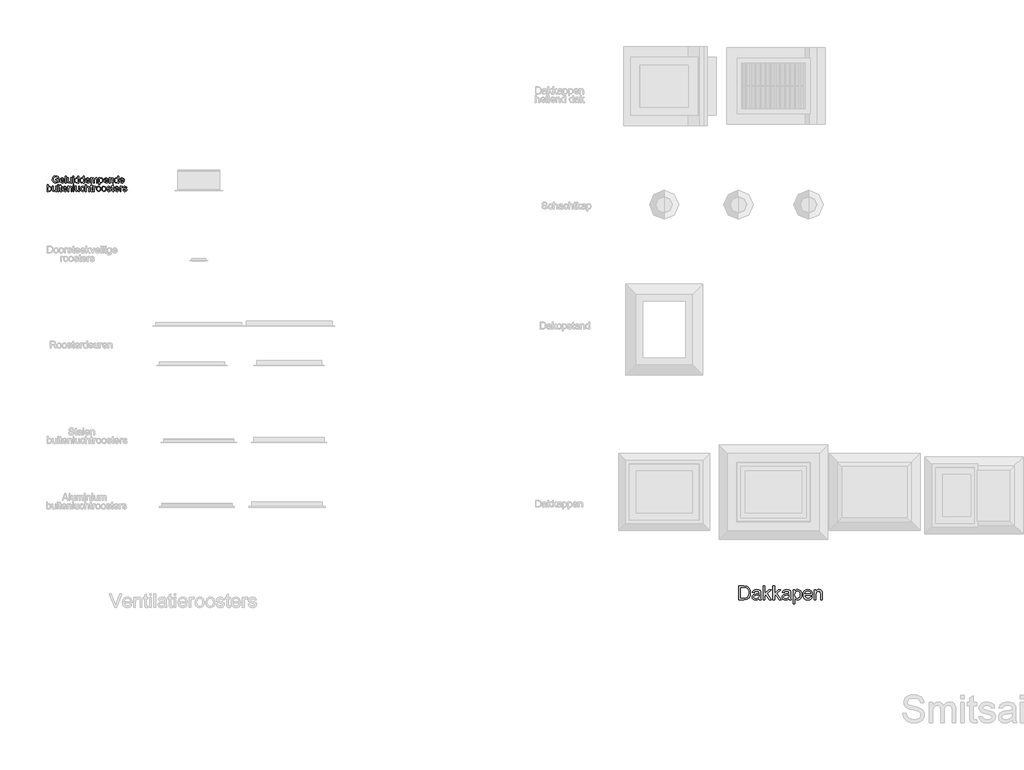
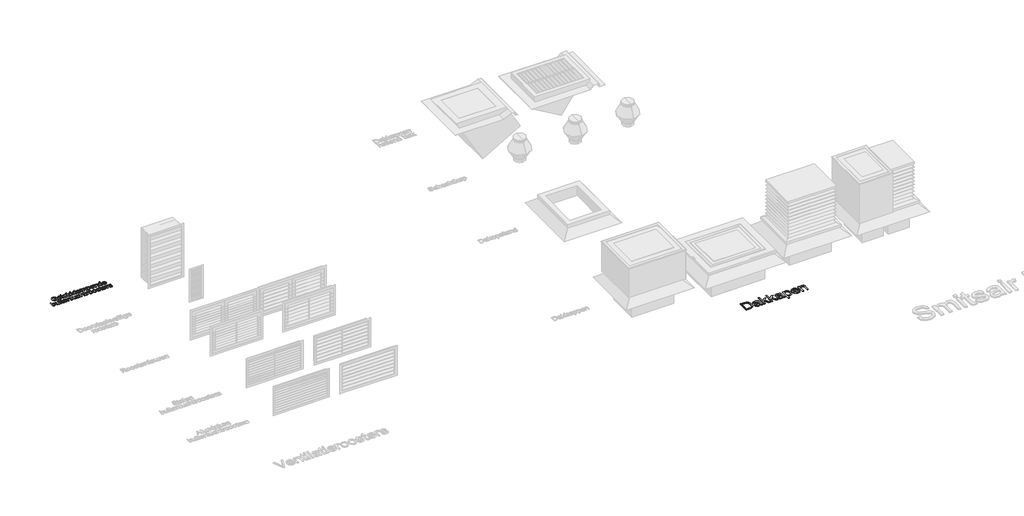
# One storey, part 4 of 10: 2 proxies.
"""IFC4 building model written with IfcOpenShell, lengths in millimetres."""

from ifc_helpers import new_model, si_unit, origin, origin_with_axes, place, context, project, spatial, polyline, outline, extrude, element, save

model = new_model("IFC4")

# Units and contexts
model_context = context("Model", 3, world=origin())
ifc_project = project(units=[si_unit("LENGTHUNIT", "METRE", prefix="MILLI")], contexts=[model_context])

# Site, building, storey
site = spatial("IfcSite", under=ifc_project)
building = spatial("IfcBuilding", under=site)
storey = spatial("IfcBuildingStorey", under=building, Name="Ventilatieroosters", Elevation=0.0)

# Proxies
placement = place(None, origin())
element("IfcBuildingElementProxy", 1, Name="100mm", ObjectType="100mm", at=placement, inside=storey, context=model_context, shape_type="SweptSolid", body=[
    extrude(outline(polyline([(-4813.7879103, -10375.7686565), (-4813.7879103, -10363.4609642), (-4773.7879103, -10363.4609642), (-4773.7879103, -10400.2638488), (-4793.5355065, -10411.8744258), (-4814.4129103, -10415.7686565), (-4828.2200016, -10414.2211806), (-4840.698968, -10409.5787527), (-4851.0655545, -10402.0036325), (-4858.5355065, -10391.6580796), (-4863.0517324, -10379.2482238), (-4864.5571411, -10365.480195), (-4858.5595449, -10338.7133681), (-4851.2488478, -10327.8930556), (-4841.3119488, -10320.2638488), (-4829.2085834, -10315.7386084), (-4815.3984872, -10314.230195), (-4796.1436795, -10317.7277911), (-4782.6460834, -10327.4633681), (-4775.2061795, -10343.7494258), (-4786.5523334, -10346.9465411), (-4792.1653141, -10335.5643296), (-4801.7566603, -10329.0018296), (-4815.5907949, -10326.5378873), (-4831.3480065, -10329.1941373), (-4842.0691603, -10336.1652911), (-4848.4032949, -10345.6484642), (-4852.2494488, -10364.9753873), (-4847.6220449, -10386.4297142), (-4834.1605065, -10399.2662527), (-4815.3984872, -10403.4609642), (-4798.5595449, -10400.2999065), (-4786.0956026, -10393.5571181), (-4786.0956026, -10375.7686565), (-4813.7879103, -10375.7686565)])), origin_with_axes(), (0.0, 0.0, 1.0), 2.0),
    extrude(outline(polyline([(-4704.7013718, -10392.6917334), (-4692.6340641, -10394.230195), (-4696.9820209, -10403.3227431), (-4703.9201218, -10410.1196181), (-4713.292117, -10414.3563969), (-4724.9417565, -10415.7686565), (-4739.3828622, -10413.3317575), (-4750.4946411, -10406.0210604), (-4757.5799776, -10394.3113248), (-4759.9417565, -10378.6773104), (-4757.5559391, -10362.5174546), (-4750.3984872, -10350.4321181), (-4739.4369488, -10342.8960604), (-4725.6388718, -10340.3840411), (-4712.2704824, -10342.8900508), (-4701.5883911, -10350.4080796), (-4694.5841843, -10362.4693777), (-4692.2494488, -10378.605195), (-4692.3215641, -10381.9225027), (-4747.6340641, -10381.9225027), (-4745.5036555, -10391.1352431), (-4740.5547372, -10397.9080796), (-4724.7013718, -10403.4609642), (-4712.6340641, -10400.8888488), (-4704.7013718, -10392.6917334)]), holes=[polyline([(-4747.6340641, -10369.6148104), (-4704.5571411, -10369.6148104), (-4709.4850257, -10358.4609642), (-4716.6605065, -10354.1340411), (-4725.6869488, -10352.6917334), (-4740.8431988, -10357.2950988), (-4747.6340641, -10369.6148104)])]), origin_with_axes(), (0.0, 0.0, 1.0), 2.0),
    extrude(outline(polyline([(-4679.9417565, -10414.230195), (-4679.9417565, -10315.7686565), (-4667.6340641, -10315.7686565), (-4667.6340641, -10414.230195), (-4679.9417565, -10414.230195)])), origin_with_axes(), (0.0, 0.0, 1.0), 2.0),
    extrude(outline(polyline([(-4603.0186795, -10414.230195), (-4603.0186795, -10401.8023104), (-4612.6581026, -10412.27707), (-4625.230218, -10415.7686565), (-4636.8047372, -10413.3167334), (-4644.7855065, -10407.1628873), (-4648.4513718, -10398.1003873), (-4649.1725257, -10386.6580796), (-4649.1725257, -10341.9225027), (-4636.8648334, -10341.9225027), (-4636.8648334, -10380.8648104), (-4636.1196411, -10393.4128873), (-4631.2518526, -10400.7806758), (-4622.0811795, -10403.4609642), (-4611.8047372, -10400.7205796), (-4605.0138718, -10393.2566373), (-4603.0186795, -10379.542695), (-4603.0186795, -10341.9225027), (-4590.7109872, -10341.9225027), (-4590.7109872, -10414.230195), (-4603.0186795, -10414.230195)])), origin_with_axes(), (0.0, 0.0, 1.0), 2.0),
    extrude(outline(polyline([(-4573.7879103, -10414.230195), (-4573.7879103, -10341.9225027), (-4561.480218, -10341.9225027), (-4561.480218, -10414.230195), (-4573.7879103, -10414.230195)])), origin_with_axes(), (0.0, 0.0, 1.0), 2.0),
    extrude(outline(polyline([(-4573.7879103, -10328.0763488), (-4573.7879103, -10315.7686565), (-4561.480218, -10315.7686565), (-4561.480218, -10328.0763488), (-4573.7879103, -10328.0763488)])), origin_with_axes(), (0.0, 0.0, 1.0), 2.0),
    extrude(outline(polyline([(-4498.4032949, -10414.230195), (-4498.4032949, -10402.6196181), (-4506.5463238, -10412.4813969), (-4517.8023334, -10415.7686565), (-4533.042718, -10411.0090411), (-4543.8119488, -10397.7277911), (-4547.6340641, -10378.1484642), (-4544.1124295, -10358.5571181), (-4533.5595449, -10345.0715411), (-4517.8504103, -10340.3840411), (-4506.5042565, -10343.7374065), (-4498.4032949, -10352.4513488), (-4498.4032949, -10315.7686565), (-4486.0956026, -10315.7686565), (-4486.0956026, -10414.230195), (-4498.4032949, -10414.230195)]), holes=[polyline([(-4535.3263718, -10378.1003873), (-4533.9381507, -10389.2331998), (-4529.7734872, -10397.1508681), (-4523.7218045, -10401.8834402), (-4516.6725257, -10403.4609642), (-4509.6262516, -10401.9555556), (-4503.7278141, -10397.4393296), (-4499.7344247, -10389.8281517), (-4498.4032949, -10379.0378873), (-4499.7584632, -10367.2410123), (-4503.823968, -10359.0619258), (-4509.8726459, -10354.2842815), (-4517.1773334, -10352.6917334), (-4524.2987276, -10354.2211806), (-4530.1340641, -10358.8095219), (-4534.0282949, -10366.6911325), (-4535.3263718, -10378.1003873)])]), origin_with_axes(), (0.0, 0.0, 1.0), 2.0),
    extrude(outline(polyline([(-4423.0186795, -10414.230195), (-4423.0186795, -10402.6196181), (-4431.1617084, -10412.4813969), (-4442.417718, -10415.7686565), (-4457.6581026, -10411.0090411), (-4468.4273334, -10397.7277911), (-4472.2494488, -10378.1484642), (-4468.7278141, -10358.5571181), (-4458.1749295, -10345.0715411), (-4442.4657949, -10340.3840411), (-4431.1196411, -10343.7374065), (-4423.0186795, -10352.4513488), (-4423.0186795, -10315.7686565), (-4410.7109872, -10315.7686565), (-4410.7109872, -10414.230195), (-4423.0186795, -10414.230195)]), holes=[polyline([(-4459.9417565, -10378.1003873), (-4458.5535353, -10389.2331998), (-4454.3888718, -10397.1508681), (-4448.3371891, -10401.8834402), (-4441.2879103, -10403.4609642), (-4434.2416363, -10401.9555556), (-4428.3431988, -10397.4393296), (-4424.3498093, -10389.8281517), (-4423.0186795, -10379.0378873), (-4424.3738478, -10367.2410123), (-4428.4393526, -10359.0619258), (-4434.4880305, -10354.2842815), (-4441.792718, -10352.6917334), (-4448.9141122, -10354.2211806), (-4454.7494488, -10358.8095219), (-4458.6436795, -10366.6911325), (-4459.9417565, -10378.1003873)])]), origin_with_axes(), (0.0, 0.0, 1.0), 2.0),
    extrude(outline(polyline([(-4341.6244488, -10392.6917334), (-4329.5571411, -10394.230195), (-4333.9050978, -10403.3227431), (-4340.8431988, -10410.1196181), (-4350.215194, -10414.3563969), (-4361.8648334, -10415.7686565), (-4376.3059391, -10413.3317575), (-4387.417718, -10406.0210604), (-4394.5030545, -10394.3113248), (-4396.8648334, -10378.6773104), (-4394.4790161, -10362.5174546), (-4387.3215641, -10350.4321181), (-4376.3600257, -10342.8960604), (-4362.5619488, -10340.3840411), (-4349.1935593, -10342.8900508), (-4338.511468, -10350.4080796), (-4331.5072613, -10362.4693777), (-4329.1725257, -10378.605195), (-4329.2446411, -10381.9225027), (-4384.5571411, -10381.9225027), (-4382.4267324, -10391.1352431), (-4377.4778141, -10397.9080796), (-4361.6244488, -10403.4609642), (-4349.5571411, -10400.8888488), (-4341.6244488, -10392.6917334)]), holes=[polyline([(-4384.5571411, -10369.6148104), (-4341.480218, -10369.6148104), (-4346.4081026, -10358.4609642), (-4353.5835834, -10354.1340411), (-4362.6100257, -10352.6917334), (-4377.7662757, -10357.2950988), (-4384.5571411, -10369.6148104)])]), origin_with_axes(), (0.0, 0.0, 1.0), 2.0),
    extrude(outline(polyline([(-4316.8648334, -10414.230195), (-4316.8648334, -10341.9225027), (-4304.5571411, -10341.9225027), (-4304.5571411, -10353.8215411), (-4296.0956026, -10344.073945), (-4284.0523334, -10340.3840411), (-4271.7206026, -10344.1460604), (-4264.9417565, -10354.6869258), (-4255.3383911, -10343.9597623), (-4243.2109872, -10340.3840411), (-4233.9591843, -10341.8714209), (-4227.1172372, -10346.3335604), (-4222.8894728, -10353.8906517), (-4221.480218, -10364.6628873), (-4221.480218, -10414.230195), (-4233.7879103, -10414.230195), (-4233.7879103, -10369.9513488), (-4234.9297372, -10359.6749065), (-4239.0643526, -10354.6148104), (-4246.0956026, -10352.6917334), (-4258.198968, -10357.6196181), (-4263.0186795, -10373.4128873), (-4263.0186795, -10414.230195), (-4275.3263718, -10414.230195), (-4275.3263718, -10368.5811565), (-4278.1749295, -10356.6580796), (-4287.5138718, -10352.6917334), (-4296.6244488, -10355.3359642), (-4302.6821411, -10363.0763488), (-4304.5571411, -10377.7638488), (-4304.5571411, -10414.230195), (-4316.8648334, -10414.230195)])), origin_with_axes(), (0.0, 0.0, 1.0), 2.0),
    extrude(outline(polyline([(-4203.0186795, -10441.9225027), (-4203.0186795, -10341.9225027), (-4190.7109872, -10341.9225027), (-4190.7109872, -10353.9898104), (-4182.2013718, -10343.7854834), (-4170.7109872, -10340.3840411), (-4155.1100257, -10345.1436565), (-4144.917718, -10358.5571181), (-4141.480218, -10377.5234642), (-4145.3624295, -10397.4633681), (-4156.636468, -10411.0450988), (-4172.2013718, -10415.7686565), (-4182.9105065, -10412.6075988), (-4190.7109872, -10404.6148104), (-4190.7109872, -10441.9225027), (-4203.0186795, -10441.9225027)]), holes=[polyline([(-4190.7109872, -10378.6532719), (-4189.3798574, -10389.6869258), (-4185.386468, -10397.4032719), (-4179.4940401, -10401.9465411), (-4172.4657949, -10403.4609642), (-4165.323367, -10401.8924546), (-4159.2806988, -10397.1869258), (-4155.1611074, -10389.1881277), (-4153.7879103, -10377.7398104), (-4155.1280545, -10366.7662527), (-4159.1484872, -10358.9417334), (-4165.0319007, -10354.2542334), (-4171.9609872, -10352.6917334), (-4178.917117, -10354.3533921), (-4185.0258911, -10359.3383681), (-4189.2897132, -10367.4904113), (-4190.7109872, -10378.6532719)])]), origin_with_axes(), (0.0, 0.0, 1.0), 2.0),
    extrude(outline(polyline([(-4077.0090641, -10392.6917334), (-4064.9417565, -10394.230195), (-4069.2897132, -10403.3227431), (-4076.2278141, -10410.1196181), (-4085.5998093, -10414.3563969), (-4097.2494488, -10415.7686565), (-4111.6905545, -10413.3317575), (-4122.8023334, -10406.0210604), (-4129.8876699, -10394.3113248), (-4132.2494488, -10378.6773104), (-4129.8636315, -10362.5174546), (-4122.7061795, -10350.4321181), (-4111.7446411, -10342.8960604), (-4097.9465641, -10340.3840411), (-4084.5781747, -10342.8900508), (-4073.8960834, -10350.4080796), (-4066.8918766, -10362.4693777), (-4064.5571411, -10378.605195), (-4064.6292565, -10381.9225027), (-4119.9417565, -10381.9225027), (-4117.8113478, -10391.1352431), (-4112.8624295, -10397.9080796), (-4097.0090641, -10403.4609642), (-4084.9417565, -10400.8888488), (-4077.0090641, -10392.6917334)]), holes=[polyline([(-4119.9417565, -10369.6148104), (-4076.8648334, -10369.6148104), (-4081.792718, -10358.4609642), (-4088.9681988, -10354.1340411), (-4097.9946411, -10352.6917334), (-4113.1508911, -10357.2950988), (-4119.9417565, -10369.6148104)])]), origin_with_axes(), (0.0, 0.0, 1.0), 2.0),
    extrude(outline(polyline([(-4052.2494488, -10414.230195), (-4052.2494488, -10341.9225027), (-4039.9417565, -10341.9225027), (-4039.9417565, -10352.0186565), (-4030.5306988, -10343.292695), (-4017.6821411, -10340.3840411), (-4006.0595449, -10342.7277911), (-3998.1268526, -10348.8816373), (-3994.4369488, -10357.9321181), (-3993.7879103, -10369.8311565), (-3993.7879103, -10414.230195), (-4006.0956026, -10414.230195), (-4006.0956026, -10371.4898104), (-4007.5138718, -10360.6003873), (-4012.5258911, -10354.8431758), (-4020.9754103, -10352.6917334), (-4034.3287757, -10357.5234642), (-4038.5385113, -10364.5246661), (-4039.9417565, -10375.8648104), (-4039.9417565, -10414.230195), (-4052.2494488, -10414.230195)])), origin_with_axes(), (0.0, 0.0, 1.0), 2.0),
    extrude(outline(polyline([(-3932.2494488, -10414.230195), (-3932.2494488, -10402.6196181), (-3940.3924776, -10412.4813969), (-3951.6484872, -10415.7686565), (-3966.8888718, -10411.0090411), (-3977.6581026, -10397.7277911), (-3981.480218, -10378.1484642), (-3977.9585834, -10358.5571181), (-3967.4056988, -10345.0715411), (-3951.6965641, -10340.3840411), (-3940.3504103, -10343.7374065), (-3932.2494488, -10352.4513488), (-3932.2494488, -10315.7686565), (-3919.9417565, -10315.7686565), (-3919.9417565, -10414.230195), (-3932.2494488, -10414.230195)]), holes=[polyline([(-3969.1725257, -10378.1003873), (-3967.7843045, -10389.2331998), (-3963.6196411, -10397.1508681), (-3957.5679584, -10401.8834402), (-3950.5186795, -10403.4609642), (-3943.4724055, -10401.9555556), (-3937.573968, -10397.4393296), (-3933.5805786, -10389.8281517), (-3932.2494488, -10379.0378873), (-3933.604617, -10367.2410123), (-3937.6701218, -10359.0619258), (-3943.7187997, -10354.2842815), (-3951.0234872, -10352.6917334), (-3958.1448815, -10354.2211806), (-3963.980218, -10358.8095219), (-3967.8744488, -10366.6911325), (-3969.1725257, -10378.1003873)])]), origin_with_axes(), (0.0, 0.0, 1.0), 2.0),
    extrude(outline(polyline([(-3850.855218, -10392.6917334), (-3838.7879103, -10394.230195), (-3843.135867, -10403.3227431), (-3850.073968, -10410.1196181), (-3859.4459632, -10414.3563969), (-3871.0956026, -10415.7686565), (-3885.5367084, -10413.3317575), (-3896.6484872, -10406.0210604), (-3903.7338238, -10394.3113248), (-3906.0956026, -10378.6773104), (-3903.7097853, -10362.5174546), (-3896.5523334, -10350.4321181), (-3885.5907949, -10342.8960604), (-3871.792718, -10340.3840411), (-3858.4243286, -10342.8900508), (-3847.7422372, -10350.4080796), (-3840.7380305, -10362.4693777), (-3838.4032949, -10378.605195), (-3838.4754103, -10381.9225027), (-3893.7879103, -10381.9225027), (-3891.6575016, -10391.1352431), (-3886.7085834, -10397.9080796), (-3870.855218, -10403.4609642), (-3858.7879103, -10400.8888488), (-3850.855218, -10392.6917334)]), holes=[polyline([(-3893.7879103, -10369.6148104), (-3850.7109872, -10369.6148104), (-3855.6388718, -10358.4609642), (-3862.8143526, -10354.1340411), (-3871.8407949, -10352.6917334), (-3886.9970449, -10357.2950988), (-3893.7879103, -10369.6148104)])]), origin_with_axes(), (0.0, 0.0, 1.0), 2.0),
    extrude(outline(polyline([(-4926.0956026, -10535.7686565), (-4938.4032949, -10535.7686565), (-4938.4032949, -10437.3071181), (-4926.0956026, -10437.3071181), (-4926.0956026, -10473.8215411), (-4917.4778141, -10464.8972623), (-4906.7686795, -10461.9225027), (-4894.4369488, -10464.6027911), (-4884.8696411, -10472.1388488), (-4878.9922372, -10483.8575988), (-4876.8648334, -10498.5330796), (-4879.0673574, -10514.9633681), (-4885.6749295, -10527.1869258), (-4895.371444, -10534.77707), (-4906.8407949, -10537.3071181), (-4917.7843045, -10534.0438969), (-4926.0956026, -10524.2542334), (-4926.0956026, -10535.7686565)]), holes=[polyline([(-4926.0956026, -10499.1100027), (-4922.730218, -10516.3215411), (-4916.2819007, -10522.8299546), (-4907.8984872, -10524.9994258), (-4900.7951218, -10523.4008681), (-4894.7254103, -10518.605195), (-4890.5607468, -10510.6424546), (-4889.1725257, -10499.542695), (-4890.5036555, -10488.2806758), (-4894.4970449, -10480.4080796), (-4900.3774536, -10475.7746661), (-4907.3696411, -10474.230195), (-4914.4730065, -10475.8287527), (-4920.542718, -10480.6244258), (-4924.7073815, -10488.4429354), (-4926.0956026, -10499.1100027)])]), origin_with_axes(), (0.0, 0.0, 1.0), 2.0),
    extrude(outline(polyline([(-4816.8648334, -10535.7686565), (-4816.8648334, -10523.3407719), (-4826.5042565, -10533.8155315), (-4839.0763718, -10537.3071181), (-4850.6508911, -10534.855195), (-4858.6316603, -10528.7013488), (-4862.2975257, -10519.6388488), (-4863.0186795, -10508.1965411), (-4863.0186795, -10463.4609642), (-4850.7109872, -10463.4609642), (-4850.7109872, -10502.4032719), (-4849.9657949, -10514.9513488), (-4845.0980065, -10522.3191373), (-4835.9273334, -10524.9994258), (-4825.6508911, -10522.2590411), (-4818.8600257, -10514.7950988), (-4816.8648334, -10501.0811565), (-4816.8648334, -10463.4609642), (-4804.5571411, -10463.4609642), (-4804.5571411, -10535.7686565), (-4816.8648334, -10535.7686565)])), origin_with_axes(), (0.0, 0.0, 1.0), 2.0),
    extrude(outline(polyline([(-4787.6340641, -10535.7686565), (-4787.6340641, -10463.4609642), (-4775.3263718, -10463.4609642), (-4775.3263718, -10535.7686565), (-4787.6340641, -10535.7686565)])), origin_with_axes(), (0.0, 0.0, 1.0), 2.0),
    extrude(outline(polyline([(-4787.6340641, -10449.6148104), (-4787.6340641, -10437.3071181), (-4775.3263718, -10437.3071181), (-4775.3263718, -10449.6148104), (-4787.6340641, -10449.6148104)])), origin_with_axes(), (0.0, 0.0, 1.0), 2.0),
    extrude(outline(polyline([(-4730.7109872, -10525.5042334), (-4729.1725257, -10536.1292334), (-4738.3792565, -10537.3071181), (-4748.6917565, -10535.2638488), (-4753.8359872, -10529.9032719), (-4755.3263718, -10515.9369258), (-4755.3263718, -10475.7686565), (-4764.5571411, -10475.7686565), (-4764.5571411, -10463.4609642), (-4755.3263718, -10463.4609642), (-4755.3263718, -10445.8888488), (-4743.0186795, -10438.6532719), (-4743.0186795, -10463.4609642), (-4730.7109872, -10463.4609642), (-4730.7109872, -10475.7686565), (-4743.0186795, -10475.7686565), (-4743.0186795, -10515.5763488), (-4742.3696411, -10521.9225027), (-4740.2662757, -10524.1700988), (-4736.0715641, -10524.9994258), (-4730.7109872, -10525.5042334)])), origin_with_axes(), (0.0, 0.0, 1.0), 2.0),
    extrude(outline(polyline([(-4667.7782949, -10514.230195), (-4655.7109872, -10515.7686565), (-4660.058944, -10524.8612046), (-4666.9970449, -10531.6580796), (-4676.3690401, -10535.8948584), (-4688.0186795, -10537.3071181), (-4702.4597853, -10534.870219), (-4713.5715641, -10527.5595219), (-4720.6569007, -10515.8497863), (-4723.0186795, -10500.2157719), (-4720.6328622, -10484.0559161), (-4713.4754103, -10471.9705796), (-4702.5138718, -10464.4345219), (-4688.7157949, -10461.9225027), (-4675.3474055, -10464.4285123), (-4664.6653141, -10471.9465411), (-4657.6611074, -10484.0078392), (-4655.3263718, -10500.1436565), (-4655.3984872, -10503.4609642), (-4710.7109872, -10503.4609642), (-4708.5805786, -10512.6737046), (-4703.6316603, -10519.4465411), (-4687.7782949, -10524.9994258), (-4675.7109872, -10522.4273104), (-4667.7782949, -10514.230195)]), holes=[polyline([(-4710.7109872, -10491.1532719), (-4667.6340641, -10491.1532719), (-4672.5619488, -10479.9994258), (-4679.7374295, -10475.6725027), (-4688.7638718, -10474.230195), (-4703.9201218, -10478.8335604), (-4710.7109872, -10491.1532719)])]), origin_with_axes(), (0.0, 0.0, 1.0), 2.0),
    extrude(outline(polyline([(-4643.0186795, -10535.7686565), (-4643.0186795, -10463.4609642), (-4630.7109872, -10463.4609642), (-4630.7109872, -10473.5571181), (-4621.2999295, -10464.8311565), (-4608.4513718, -10461.9225027), (-4596.8287757, -10464.2662527), (-4588.8960834, -10470.4200988), (-4585.2061795, -10479.4705796), (-4584.5571411, -10491.3696181), (-4584.5571411, -10535.7686565), (-4596.8648334, -10535.7686565), (-4596.8648334, -10493.0282719), (-4598.2831026, -10482.1388488), (-4603.2951218, -10476.3816373), (-4611.7446411, -10474.230195), (-4625.0980065, -10479.0619258), (-4629.307742, -10486.0631277), (-4630.7109872, -10497.4032719), (-4630.7109872, -10535.7686565), (-4643.0186795, -10535.7686565)])), origin_with_axes(), (0.0, 0.0, 1.0), 2.0),
    extrude(outline(polyline([(-4567.6340641, -10535.7686565), (-4567.6340641, -10437.3071181), (-4555.3263718, -10437.3071181), (-4555.3263718, -10535.7686565), (-4567.6340641, -10535.7686565)])), origin_with_axes(), (0.0, 0.0, 1.0), 2.0),
    extrude(outline(polyline([(-4490.7109872, -10535.7686565), (-4490.7109872, -10523.3407719), (-4500.3504103, -10533.8155315), (-4512.9225257, -10537.3071181), (-4524.4970449, -10534.855195), (-4532.4778141, -10528.7013488), (-4536.1436795, -10519.6388488), (-4536.8648334, -10508.1965411), (-4536.8648334, -10463.4609642), (-4524.5571411, -10463.4609642), (-4524.5571411, -10502.4032719), (-4523.8119488, -10514.9513488), (-4518.9441603, -10522.3191373), (-4509.7734872, -10524.9994258), (-4499.4970449, -10522.2590411), (-4492.7061795, -10514.7950988), (-4490.7109872, -10501.0811565), (-4490.7109872, -10463.4609642), (-4478.4032949, -10463.4609642), (-4478.4032949, -10535.7686565), (-4490.7109872, -10535.7686565)])), origin_with_axes(), (0.0, 0.0, 1.0), 2.0),
    extrude(outline(polyline([(-4415.3263718, -10509.6148104), (-4403.0186795, -10511.1532719), (-4406.4501699, -10522.0997863), (-4412.8984872, -10530.3720219), (-4421.7566603, -10535.573344), (-4432.417718, -10537.3071181), (-4445.5096651, -10534.8882479), (-4455.7470449, -10527.6316373), (-4462.354617, -10515.8557959), (-4464.5571411, -10499.8792334), (-4460.7951218, -10479.4345219), (-4449.3287757, -10466.2975027), (-4432.5859872, -10461.9225027), (-4422.1863478, -10463.4249065), (-4413.8720449, -10467.9321181), (-4407.9075016, -10475.2037527), (-4404.5571411, -10484.9994258), (-4416.8648334, -10486.5378873), (-4422.573968, -10477.3191373), (-4432.4898334, -10474.230195), (-4440.4435593, -10475.7506277), (-4446.7566603, -10480.3119258), (-4450.8762516, -10488.1604834), (-4452.2494488, -10499.542695), (-4450.9062997, -10511.0781517), (-4446.8768526, -10518.9537527), (-4440.6779343, -10523.4880075), (-4432.8263718, -10524.9994258), (-4421.2278141, -10521.2253873), (-4415.3263718, -10509.6148104)])), origin_with_axes(), (0.0, 0.0, 1.0), 2.0),
    extrude(outline(polyline([(-4392.2494488, -10535.7686565), (-4392.2494488, -10437.3071181), (-4379.9417565, -10437.3071181), (-4379.9417565, -10473.5090411), (-4370.3444007, -10464.8191373), (-4358.5234872, -10461.9225027), (-4344.7013718, -10465.0835604), (-4336.3119488, -10473.8215411), (-4333.7879103, -10489.9994258), (-4333.7879103, -10535.7686565), (-4346.0956026, -10535.7686565), (-4346.0956026, -10491.2734642), (-4350.0138718, -10478.292695), (-4361.1196411, -10474.230195), (-4371.2037757, -10476.9705796), (-4377.9345449, -10484.3984642), (-4379.9417565, -10497.355195), (-4379.9417565, -10535.7686565), (-4392.2494488, -10535.7686565)])), origin_with_axes(), (0.0, 0.0, 1.0), 2.0),
    extrude(outline(polyline([(-4290.7109872, -10525.5042334), (-4289.1725257, -10536.1292334), (-4298.3792565, -10537.3071181), (-4308.6917565, -10535.2638488), (-4313.8359872, -10529.9032719), (-4315.3263718, -10515.9369258), (-4315.3263718, -10475.7686565), (-4324.5571411, -10475.7686565), (-4324.5571411, -10463.4609642), (-4315.3263718, -10463.4609642), (-4315.3263718, -10445.8888488), (-4303.0186795, -10438.6532719), (-4303.0186795, -10463.4609642), (-4290.7109872, -10463.4609642), (-4290.7109872, -10475.7686565), (-4303.0186795, -10475.7686565), (-4303.0186795, -10515.5763488), (-4302.3696411, -10521.9225027), (-4300.2662757, -10524.1700988), (-4296.0715641, -10524.9994258), (-4290.7109872, -10525.5042334)])), origin_with_axes(), (0.0, 0.0, 1.0), 2.0),
    extrude(outline(polyline([(-4278.4032949, -10535.7686565), (-4278.4032949, -10463.4609642), (-4267.6340641, -10463.4609642), (-4267.6340641, -10474.1580796), (-4259.9898334, -10464.3023104), (-4252.2975257, -10461.9225027), (-4239.9417565, -10465.7205796), (-4244.0523334, -10476.7542334), (-4252.7061795, -10474.230195), (-4259.6653141, -10476.6580796), (-4264.1004103, -10483.3888488), (-4266.0956026, -10497.7638488), (-4266.0956026, -10535.7686565), (-4278.4032949, -10535.7686565)])), origin_with_axes(), (0.0, 0.0, 1.0), 2.0),
    extrude(outline(polyline([(-4235.3263718, -10499.6148104), (-4232.6641122, -10482.1809161), (-4224.6773334, -10469.9273104), (-4214.8095449, -10463.9237046), (-4202.9946411, -10461.9225027), (-4190.0649536, -10464.3594017), (-4179.7374295, -10471.6700988), (-4172.9675978, -10483.2776709), (-4170.7109872, -10498.605195), (-4174.7013718, -10520.5042334), (-4186.323968, -10532.8960604), (-4202.9946411, -10537.3071181), (-4216.0805786, -10534.8792334), (-4226.3960834, -10527.5955796), (-4233.0937997, -10515.7446181), (-4235.3263718, -10499.6148104)]), holes=[polyline([(-4223.0186795, -10499.5907719), (-4221.5944007, -10510.729594), (-4217.3215641, -10518.6652911), (-4210.8912757, -10523.4158921), (-4202.9946411, -10524.9994258), (-4195.1340641, -10523.4068777), (-4188.7157949, -10518.6292334), (-4184.4429584, -10510.5883681), (-4183.0186795, -10499.2061565), (-4184.4519728, -10488.3918536), (-4188.7518526, -10480.5643296), (-4195.1791363, -10475.8137286), (-4202.9946411, -10474.230195), (-4210.8912757, -10475.807719), (-4217.3215641, -10480.5402911), (-4221.5944007, -10488.4579594), (-4223.0186795, -10499.5907719)])]), origin_with_axes(), (0.0, 0.0, 1.0), 2.0),
    extrude(outline(polyline([(-4159.9417565, -10499.6148104), (-4157.2794968, -10482.1809161), (-4149.292718, -10469.9273104), (-4139.4249295, -10463.9237046), (-4127.6100257, -10461.9225027), (-4114.6803382, -10464.3594017), (-4104.3528141, -10471.6700988), (-4097.5829824, -10483.2776709), (-4095.3263718, -10498.605195), (-4099.3167565, -10520.5042334), (-4110.9393526, -10532.8960604), (-4127.6100257, -10537.3071181), (-4140.6959632, -10534.8792334), (-4151.011468, -10527.5955796), (-4157.7091843, -10515.7446181), (-4159.9417565, -10499.6148104)]), holes=[polyline([(-4147.6340641, -10499.5907719), (-4146.2097853, -10510.729594), (-4141.9369488, -10518.6652911), (-4135.5066603, -10523.4158921), (-4127.6100257, -10524.9994258), (-4119.7494488, -10523.4068777), (-4113.3311795, -10518.6292334), (-4109.058343, -10510.5883681), (-4107.6340641, -10499.2061565), (-4109.0673574, -10488.3918536), (-4113.3672372, -10480.5643296), (-4119.7945209, -10475.8137286), (-4127.6100257, -10474.230195), (-4135.5066603, -10475.807719), (-4141.9369488, -10480.5402911), (-4146.2097853, -10488.4579594), (-4147.6340641, -10499.5907719)])]), origin_with_axes(), (0.0, 0.0, 1.0), 2.0),
    extrude(outline(polyline([(-4086.0956026, -10514.230195), (-4073.7879103, -10512.6917334), (-4068.0907949, -10521.8263488), (-4055.0379103, -10524.9994258), (-4042.4898334, -10522.0907719), (-4038.4032949, -10515.2638488), (-4042.5138718, -10509.7350027), (-4055.1821411, -10506.2253873), (-4073.7157949, -10500.2037527), (-4081.8047372, -10493.1725027), (-4084.5571411, -10483.2446181), (-4082.3456026, -10474.073945), (-4076.3119488, -10467.0667334), (-4068.4874295, -10463.4249065), (-4057.8984872, -10461.9225027), (-4042.9225257, -10464.3383681), (-4033.4032949, -10470.8768296), (-4029.1725257, -10481.9225027), (-4041.480218, -10483.4609642), (-4046.1076218, -10476.6700988), (-4056.9369488, -10474.230195), (-4068.7157949, -10476.5619258), (-4072.2494488, -10481.9946181), (-4070.7831026, -10485.5763488), (-4066.1917565, -10488.292695), (-4055.5907949, -10490.9128873), (-4037.5258911, -10496.7061565), (-4029.136468, -10503.2686565), (-4026.0956026, -10513.9657719), (-4029.6653141, -10525.7446181), (-4039.9657949, -10534.2902911), (-4055.2061795, -10537.3071181), (-4067.6160353, -10535.8527911), (-4076.6725257, -10531.4898104), (-4082.7181988, -10524.2662527), (-4086.0956026, -10514.230195)])), origin_with_axes(), (0.0, 0.0, 1.0), 2.0),
    extrude(outline(polyline([(-3986.0956026, -10525.5042334), (-3984.5571411, -10536.1292334), (-3993.7638718, -10537.3071181), (-4004.0763718, -10535.2638488), (-4009.2206026, -10529.9032719), (-4010.7109872, -10515.9369258), (-4010.7109872, -10475.7686565), (-4019.9417565, -10475.7686565), (-4019.9417565, -10463.4609642), (-4010.7109872, -10463.4609642), (-4010.7109872, -10445.8888488), (-3998.4032949, -10438.6532719), (-3998.4032949, -10463.4609642), (-3986.0956026, -10463.4609642), (-3986.0956026, -10475.7686565), (-3998.4032949, -10475.7686565), (-3998.4032949, -10515.5763488), (-3997.7542565, -10521.9225027), (-3995.6508911, -10524.1700988), (-3991.4561795, -10524.9994258), (-3986.0956026, -10525.5042334)])), origin_with_axes(), (0.0, 0.0, 1.0), 2.0),
    extrude(outline(polyline([(-3923.1629103, -10514.230195), (-3911.0956026, -10515.7686565), (-3915.4435593, -10524.8612046), (-3922.3816603, -10531.6580796), (-3931.7536555, -10535.8948584), (-3943.4032949, -10537.3071181), (-3957.8444007, -10534.870219), (-3968.9561795, -10527.5595219), (-3976.0415161, -10515.8497863), (-3978.4032949, -10500.2157719), (-3976.0174776, -10484.0559161), (-3968.8600257, -10471.9705796), (-3957.8984872, -10464.4345219), (-3944.1004103, -10461.9225027), (-3930.7320209, -10464.4285123), (-3920.0499295, -10471.9465411), (-3913.0457228, -10484.0078392), (-3910.7109872, -10500.1436565), (-3910.7831026, -10503.4609642), (-3966.0956026, -10503.4609642), (-3963.965194, -10512.6737046), (-3959.0162757, -10519.4465411), (-3943.1629103, -10524.9994258), (-3931.0956026, -10522.4273104), (-3923.1629103, -10514.230195)]), holes=[polyline([(-3966.0956026, -10491.1532719), (-3923.0186795, -10491.1532719), (-3927.9465641, -10479.9994258), (-3935.1220449, -10475.6725027), (-3944.1484872, -10474.230195), (-3959.3047372, -10478.8335604), (-3966.0956026, -10491.1532719)])]), origin_with_axes(), (0.0, 0.0, 1.0), 2.0),
    extrude(outline(polyline([(-3898.4032949, -10535.7686565), (-3898.4032949, -10463.4609642), (-3887.6340641, -10463.4609642), (-3887.6340641, -10474.1580796), (-3879.9898334, -10464.3023104), (-3872.2975257, -10461.9225027), (-3859.9417565, -10465.7205796), (-3864.0523334, -10476.7542334), (-3872.7061795, -10474.230195), (-3879.6653141, -10476.6580796), (-3884.1004103, -10483.3888488), (-3886.0956026, -10497.7638488), (-3886.0956026, -10535.7686565), (-3898.4032949, -10535.7686565)])), origin_with_axes(), (0.0, 0.0, 1.0), 2.0),
    extrude(outline(polyline([(-3856.8648334, -10514.230195), (-3844.5571411, -10512.6917334), (-3838.8600257, -10521.8263488), (-3825.8071411, -10524.9994258), (-3813.2590641, -10522.0907719), (-3809.1725257, -10515.2638488), (-3813.2831026, -10509.7350027), (-3825.9513718, -10506.2253873), (-3844.4850257, -10500.2037527), (-3852.573968, -10493.1725027), (-3855.3263718, -10483.2446181), (-3853.1148334, -10474.073945), (-3847.0811795, -10467.0667334), (-3839.2566603, -10463.4249065), (-3828.667718, -10461.9225027), (-3813.6917565, -10464.3383681), (-3804.1725257, -10470.8768296), (-3799.9417565, -10481.9225027), (-3812.2494488, -10483.4609642), (-3816.8768526, -10476.6700988), (-3827.7061795, -10474.230195), (-3839.4850257, -10476.5619258), (-3843.0186795, -10481.9946181), (-3841.5523334, -10485.5763488), (-3836.9609872, -10488.292695), (-3826.3600257, -10490.9128873), (-3808.2951218, -10496.7061565), (-3799.9056988, -10503.2686565), (-3796.8648334, -10513.9657719), (-3800.4345449, -10525.7446181), (-3810.7350257, -10534.2902911), (-3825.9754103, -10537.3071181), (-3838.3852661, -10535.8527911), (-3847.4417565, -10531.4898104), (-3853.4874295, -10524.2662527), (-3856.8648334, -10514.230195)])), origin_with_axes(), (0.0, 0.0, 1.0), 2.0),
])
element("IfcBuildingElementProxy", 2, Name="200mm", ObjectType="200mm", at=placement, inside=storey, context=model_context, shape_type="SweptSolid", body=[
    extrude(outline(polyline([(4938.1047806, -16369.3845569), (4938.1047806, -16172.46148), (5006.0374729, -16172.46148), (5041.1817037, -16175.2980185), (5056.8788191, -16180.7667685), (5070.1240114, -16189.3845569), (5083.7417999, -16204.3845569), (5093.4413191, -16223.0384031), (5099.2466075, -16244.9855185), (5101.1817037, -16269.8653262), (5095.9413191, -16309.6009031), (5082.4797806, -16338.2787877), (5064.4990114, -16356.1393646), (5040.9653575, -16366.0191723), (5009.3067037, -16369.3845569), (4938.1047806, -16369.3845569)]), holes=[polyline([(4962.7201652, -16344.7691723), (5006.2778575, -16344.7691723), (5037.9605499, -16341.21148), (5056.2297806, -16331.1634031), (5064.7814633, -16320.508355), (5071.2057422, -16306.7162877), (5076.5663191, -16269.4807108), (5073.9401172, -16242.6537877), (5066.0615114, -16222.8460954), (5054.4208864, -16209.2403262), (5040.5086268, -16201.0191723), (5005.6047806, -16197.0768646), (4962.7201652, -16197.0768646), (4962.7201652, -16344.7691723)])]), origin_with_axes(), (0.0, 0.0, 1.0), 5.0),
    extrude(outline(polyline([(5224.2586268, -16350.9230185), (5200.3884345, -16367.6057108), (5174.0182422, -16372.46148), (5153.4473287, -16369.5408069), (5138.2730499, -16360.7787877), (5128.9160787, -16347.4734993), (5125.7970883, -16330.9230185), (5130.5086268, -16311.4518646), (5142.8884345, -16297.3172493), (5160.1240114, -16289.2403262), (5181.4220883, -16285.5384031), (5224.114396, -16277.0768646), (5224.2586268, -16271.5960954), (5222.5639152, -16260.6105185), (5217.4797806, -16253.4230185), (5206.1095883, -16248.08648), (5190.2682422, -16246.3076339), (5165.364396, -16251.0432108), (5158.3812229, -16257.6117204), (5153.489396, -16267.8460954), (5128.8740114, -16264.7691723), (5139.5230499, -16240.7307108), (5148.5975691, -16232.6417685), (5160.9653575, -16226.6441723), (5193.4413191, -16221.6922493), (5223.2730499, -16226.0672493), (5240.1240114, -16237.0528262), (5247.6720883, -16253.7595569), (5248.8740114, -16275.2980185), (5248.8740114, -16305.9230185), (5250.1240114, -16348.6874416), (5255.0278575, -16369.3845569), (5230.4124729, -16369.3845569), (5224.2586268, -16350.9230185)]), holes=[polyline([(5224.2586268, -16301.6922493), (5184.5470883, -16309.2403262), (5163.3692037, -16313.2307108), (5153.7778575, -16319.7210954), (5150.4124729, -16329.1922493), (5152.2454056, -16336.5119608), (5157.7442037, -16342.5095569), (5166.7886749, -16346.5119608), (5179.2586268, -16347.8460954), (5192.4797806, -16346.3737396), (5204.1624729, -16341.9566723), (5220.2201652, -16327.7018646), (5224.114396, -16308.6634031), (5224.2586268, -16301.6922493)])]), origin_with_axes(), (0.0, 0.0, 1.0), 5.0),
    extrude(outline(polyline([(5282.7201652, -16369.3845569), (5282.7201652, -16172.46148), (5307.3355499, -16172.46148), (5307.3355499, -16278.2787877), (5362.5278575, -16224.7691723), (5396.5663191, -16224.7691723), (5340.7009345, -16278.9518646), (5399.6432422, -16369.3845569), (5370.8932422, -16369.3845569), (5323.0567037, -16296.0672493), (5307.3355499, -16311.3076339), (5307.3355499, -16369.3845569), (5282.7201652, -16369.3845569)])), origin_with_axes(), (0.0, 0.0, 1.0), 5.0),
    extrude(outline(polyline([(5421.1817037, -16369.3845569), (5421.1817037, -16172.46148), (5445.7970883, -16172.46148), (5445.7970883, -16278.2787877), (5500.989396, -16224.7691723), (5535.0278575, -16224.7691723), (5479.1624729, -16278.9518646), (5538.1047806, -16369.3845569), (5509.3547806, -16369.3845569), (5461.5182422, -16296.0672493), (5445.7970883, -16311.3076339), (5445.7970883, -16369.3845569), (5421.1817037, -16369.3845569)])), origin_with_axes(), (0.0, 0.0, 1.0), 5.0),
    extrude(outline(polyline([(5651.9509345, -16350.9230185), (5628.0807422, -16367.6057108), (5601.7105499, -16372.46148), (5581.1396364, -16369.5408069), (5565.9653575, -16360.7787877), (5556.6083864, -16347.4734993), (5553.489396, -16330.9230185), (5558.2009345, -16311.4518646), (5570.5807422, -16297.3172493), (5587.8163191, -16289.2403262), (5609.114396, -16285.5384031), (5651.8067037, -16277.0768646), (5651.9509345, -16271.5960954), (5650.2562229, -16260.6105185), (5645.1720883, -16253.4230185), (5633.801896, -16248.08648), (5617.9605499, -16246.3076339), (5593.0567037, -16251.0432108), (5586.0735306, -16257.6117204), (5581.1817037, -16267.8460954), (5556.5663191, -16264.7691723), (5567.2153575, -16240.7307108), (5576.2898768, -16232.6417685), (5588.6576652, -16226.6441723), (5621.1336268, -16221.6922493), (5650.9653575, -16226.0672493), (5667.8163191, -16237.0528262), (5675.364396, -16253.7595569), (5676.5663191, -16275.2980185), (5676.5663191, -16305.9230185), (5677.8163191, -16348.6874416), (5682.7201652, -16369.3845569), (5658.1047806, -16369.3845569), (5651.9509345, -16350.9230185)]), holes=[polyline([(5651.9509345, -16301.6922493), (5612.239396, -16309.2403262), (5591.0615114, -16313.2307108), (5581.4701652, -16319.7210954), (5578.1047806, -16329.1922493), (5579.9377133, -16336.5119608), (5585.4365114, -16342.5095569), (5594.4809825, -16346.5119608), (5606.9509345, -16347.8460954), (5620.1720883, -16346.3737396), (5631.8547806, -16341.9566723), (5647.9124729, -16327.7018646), (5651.8067037, -16308.6634031), (5651.9509345, -16301.6922493)])]), origin_with_axes(), (0.0, 0.0, 1.0), 5.0),
    extrude(outline(polyline([(5710.4124729, -16424.7691723), (5710.4124729, -16224.7691723), (5735.0278575, -16224.7691723), (5735.0278575, -16248.9037877), (5752.0470883, -16228.4951339), (5762.5278575, -16223.3929704), (5775.0278575, -16221.6922493), (5791.6744922, -16224.0720569), (5806.2297806, -16231.21148), (5818.0807422, -16242.6778262), (5826.614396, -16258.0384031), (5831.770646, -16276.1754223), (5833.489396, -16295.9710954), (5831.5482902, -16317.0227781), (5825.7249729, -16335.8509031), (5816.2057422, -16351.4999416), (5803.176896, -16363.0143646), (5788.0026172, -16370.0997012), (5772.0470883, -16372.46148), (5760.7309825, -16370.8809512), (5750.6288191, -16366.1393646), (5735.0278575, -16350.1537877), (5735.0278575, -16424.7691723), (5710.4124729, -16424.7691723)]), holes=[polyline([(5735.0278575, -16298.2307108), (5737.6901172, -16320.2980185), (5745.676896, -16335.7307108), (5757.4617518, -16344.8172493), (5771.5182422, -16347.8460954), (5785.8030979, -16344.7090762), (5797.8884345, -16335.2980185), (5806.1276172, -16319.3004223), (5808.8740114, -16296.4037877), (5806.1937229, -16274.4566723), (5798.1528575, -16258.8076339), (5786.3860306, -16249.4326339), (5772.5278575, -16246.3076339), (5758.6155979, -16249.6309512), (5746.3980499, -16259.6009031), (5737.8704056, -16275.9049896), (5735.0278575, -16298.2307108)])]), origin_with_axes(), (0.0, 0.0, 1.0), 5.0),
    extrude(outline(polyline([(5962.4317037, -16326.3076339), (5986.5663191, -16329.3845569), (5977.8704056, -16347.5696531), (5963.9942037, -16361.1634031), (5945.2502133, -16369.6369608), (5921.9509345, -16372.46148), (5893.0687229, -16367.5876819), (5870.8451652, -16352.9662877), (5856.6744922, -16329.5468166), (5851.9509345, -16298.2787877), (5856.7225691, -16265.9590762), (5871.0374729, -16241.7884031), (5892.9605499, -16226.7162877), (5920.5567037, -16221.6922493), (5947.2934825, -16226.7042685), (5968.6576652, -16241.7403262), (5982.6660787, -16265.8629223), (5987.3355499, -16298.1345569), (5987.1913191, -16304.7691723), (5876.5663191, -16304.7691723), (5880.8271364, -16323.1946531), (5890.7249729, -16336.7403262), (5905.0098287, -16345.0696531), (5922.4317037, -16347.8460954), (5946.5663191, -16342.7018646), (5955.5326652, -16336.0311916), (5962.4317037, -16326.3076339)]), holes=[polyline([(5876.5663191, -16280.1537877), (5962.7201652, -16280.1537877), (5959.3908383, -16267.14898), (5952.864396, -16257.8460954), (5938.5134345, -16249.1922493), (5920.4605499, -16246.3076339), (5903.8680018, -16248.6093166), (5890.1480499, -16255.5143646), (5880.6107902, -16266.2775858), (5876.5663191, -16280.1537877)])]), origin_with_axes(), (0.0, 0.0, 1.0), 5.0),
    extrude(outline(polyline([(6011.9509345, -16369.3845569), (6011.9509345, -16224.7691723), (6036.5663191, -16224.7691723), (6036.5663191, -16244.96148), (6045.1180018, -16234.7811916), (6055.3884345, -16227.5095569), (6067.3776172, -16223.1465762), (6081.0855499, -16221.6922493), (6104.3307422, -16226.3797493), (6120.1961268, -16238.6874416), (6127.5759345, -16256.7884031), (6128.8740114, -16280.58648), (6128.8740114, -16369.3845569), (6104.2586268, -16369.3845569), (6104.2586268, -16283.9037877), (6101.4220883, -16262.1249416), (6091.3980499, -16250.6105185), (6074.4990114, -16246.3076339), (6060.0819441, -16248.7234993), (6047.7922806, -16255.9710954), (6039.3728095, -16269.9734993), (6036.5663191, -16292.6537877), (6036.5663191, -16369.3845569), (6011.9509345, -16369.3845569)])), origin_with_axes(), (0.0, 0.0, 1.0), 5.0),
])

save(model, "model.ifc")
